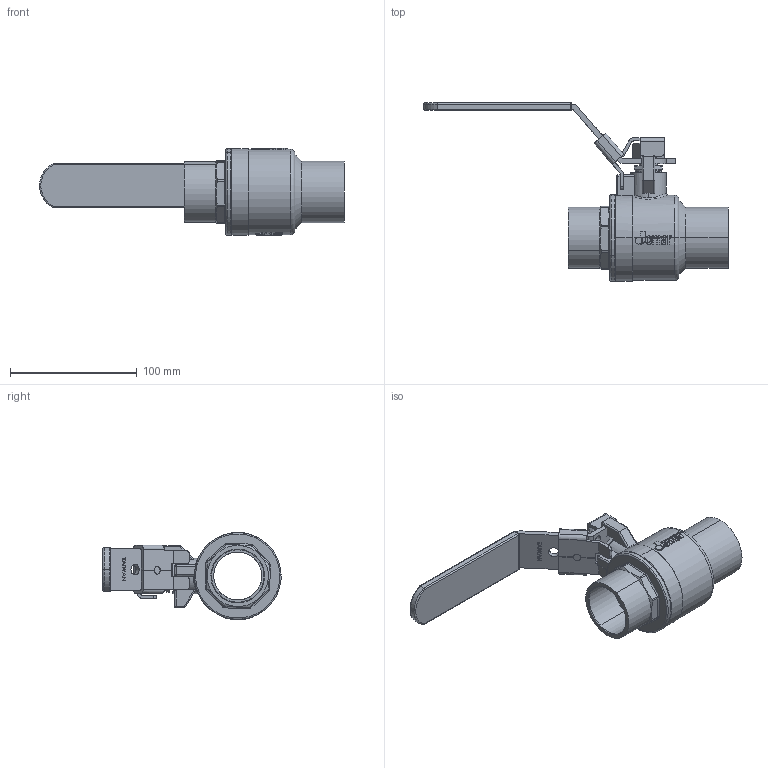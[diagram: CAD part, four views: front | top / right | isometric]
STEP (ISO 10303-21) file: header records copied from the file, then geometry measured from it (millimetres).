
FILE_DESCRIPTION (( 'STEP AP203' ), '1' );
FILE_NAME ('ABL757-Τ本玛-1.5''''JOMAR瞴恢CxC舱-礚筣.STEP', '2025-12-15T08:31:57', ( '' ), ( '' ), 'SwSTEP 2.0', 'SolidWorks 2018', '' );
FILE_SCHEMA (( 'CONFIG_CONTROL_DESIGN' ));
Length unit declared in the file: millimetre
Products named in the file (14): DN50-掛鎖; RBL267; GBL218; DN40 & DN50-CBL747-白色膠套-T&G-200CSSG-LH; EBL307; DN40-DN50-CBL747-HANDLE & SLEEVE 掛鎖組合; DN50-本玛рも-CBL238э; EBL208C; BBL717A-1.5''JOMAR球閥-CxC帽蓋-無鉛-端面無插溝 -減肉; BBL717-1.5''''JOMAR球閥體-CxC-無鉛-端面無插溝; TBL268A; NBL268; EBL208B; ABL757-¦³±¾Âê-1.5''''JOMAR²y»ÖCxC²Õ¦X-µL¹]
Assembly tree (14 placements, depth 3):
  ABL757-¦³±¾Âê-1.5''''JOMAR²y»ÖCxC²Õ¦X-µL¹]
    BBL717-1.5''''JOMAR球閥體-CxC-無鉛-端面無插溝
    RBL267
    EBL208C
    GBL218
    EBL208B
    TBL268A
    BBL717A-1.5''JOMAR球閥-CxC帽蓋-無鉛-端面無插溝 -減肉
    DN40-DN50-CBL747-HANDLE & SLEEVE 掛鎖組合
      DN50-本玛рも-CBL238э
      DN50-掛鎖
    NBL268
    EBL307  x2
    DN40 & DN50-CBL747-白色膠套-T&G-200CSSG-LH
Bounding box: 240.55 x 140.76 x 69 mm (x, y, z)
Volume: 223403.9 mm3; surface area: 129701.4 mm2
Topology: 13 solids, 13 shells, 2348 faces, 6289 edges, 4147 vertices
Faces by surface type: plane 1255, bspline 662, cylinder 315, cone 68, torus 34, sphere 14
Entity records: 121313 total; most frequent: CARTESIAN_POINT 66502, ORIENTED_EDGE 12502, DIRECTION 8485, EDGE_CURVE 6251, VERTEX_POINT 4127, LINE 3929, VECTOR 3929, EDGE_LOOP 2550
